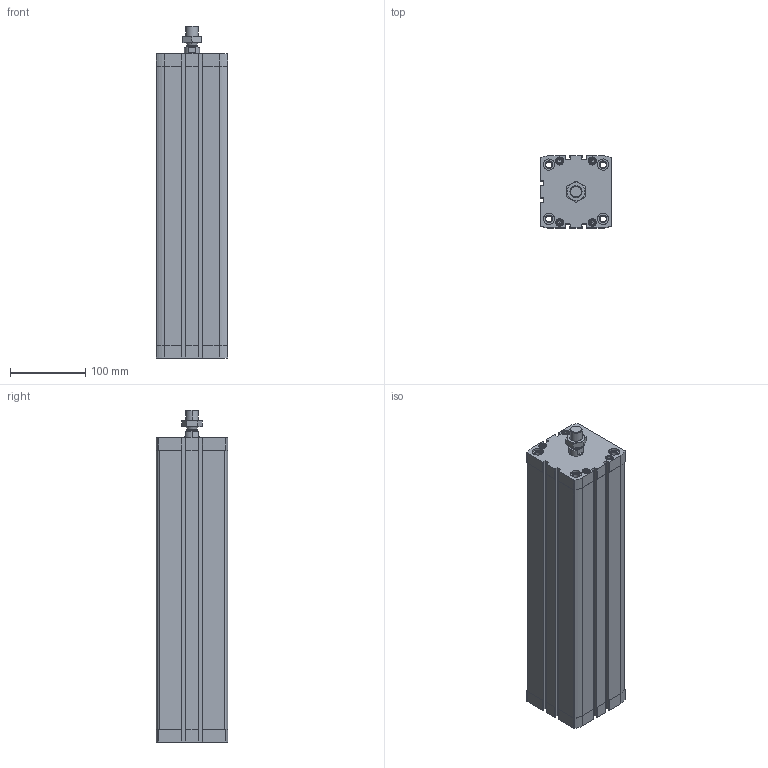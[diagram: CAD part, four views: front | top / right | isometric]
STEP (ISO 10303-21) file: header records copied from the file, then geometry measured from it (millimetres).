
FILE_DESCRIPTION (( 'STEP AP203' ), '1' );
FILE_NAME ('CCN80-350M.STEP', '2017-04-06T12:02:50', ( '' ), ( '' ), 'SwSTEP 2.0', 'SolidWorks 2016', '' );
FILE_SCHEMA (( 'CONFIG_CONTROL_DESIGN' ));
Length unit declared in the file: millimetre
Products named in the file (4): CCN-350---(Z); CCN-350_(KS); _DIN-439-B - M16x1.5(F); CCN80-350M
Assembly tree (3 placements, depth 2):
  CCN80-350M
    CCN-350---(Z)
    CCN-350_(KS)
    _DIN-439-B - M16x1.5(F)
Bounding box: 95.5 x 95.5 x 440.9 mm (x, y, z)
Volume: 1811425.1 mm3; surface area: 389482.3 mm2
Topology: 3 solids, 3 shells, 507 faces, 1278 edges, 808 vertices
Faces by surface type: plane 235, cylinder 188, cone 80, bspline 4
Entity records: 16086 total; most frequent: CARTESIAN_POINT 3295, DIRECTION 2704, ORIENTED_EDGE 2524, EDGE_CURVE 1262, AXIS2_PLACEMENT_3D 1013, VERTEX_POINT 808, LINE 678, VECTOR 678
